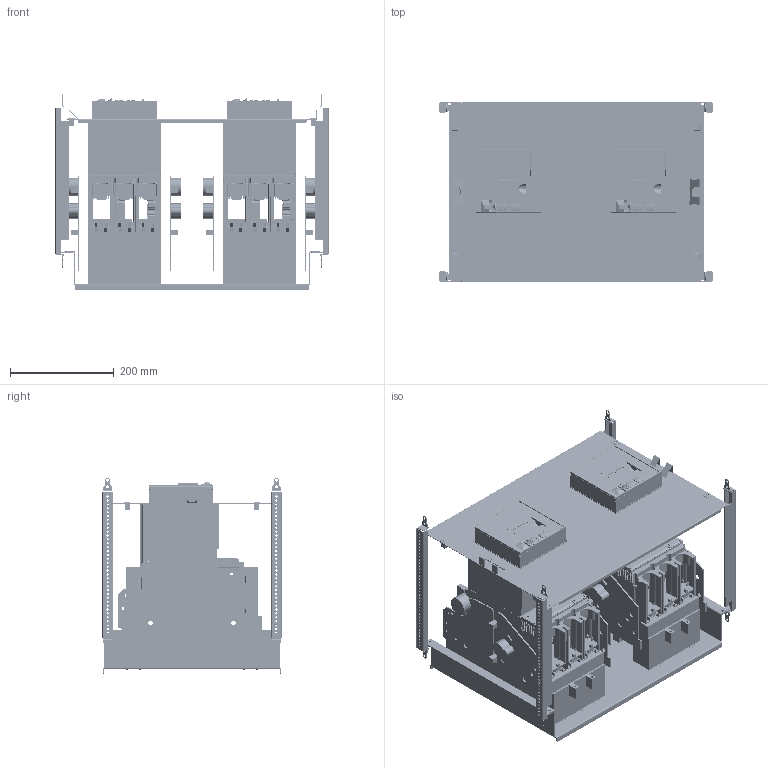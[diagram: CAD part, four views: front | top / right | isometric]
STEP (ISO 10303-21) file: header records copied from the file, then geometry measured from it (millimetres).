
FILE_DESCRIPTION(('CAx-IF Rec.Pracs.---Model Styling and Organization---1.2---2011-12-15','CAx-IF Rec.Pracs.---Geometric and Assembly Validation Properties---4.1---2014-06-16','CAx-IF Rec.Pracs.---PMI Polyline Presentation---2.0---2013-05-24'),'2;1');
FILE_NAME('R5PKIB7V62816 (W-MO).stp','2021-07-29T03:14:37+03:00',(''),(''),'STEP Interface 4.4 by CT CoreTechnologie','3D_Evolution4.4 by CT CoreTechnologie','');
FILE_SCHEMA(('AUTOMOTIVE_DESIGN { 1 0 10303 214 1 1 1 1 }'));
Length unit declared in the file: millimetre
Products named in the file (1): R5PKIB7V62816 (W-MO)
Bounding box: 526 x 348 x 378.5 mm (x, y, z)
Surface area: 3322341.9 mm2 (no closed solid volume)
Topology: 0 solids, 131 shells, 11220 faces, 33352 edges, 22244 vertices
Faces by surface type: plane 7700, cylinder 3190, bspline 330
Entity records: 381000 total; most frequent: CARTESIAN_POINT 74273, ORIENTED_EDGE 66512, DIRECTION 61202, EDGE_CURVE 33270, VECTOR 26412, LINE 26412, VERTEX_POINT 22298, AXIS2_PLACEMENT_3D 17395
